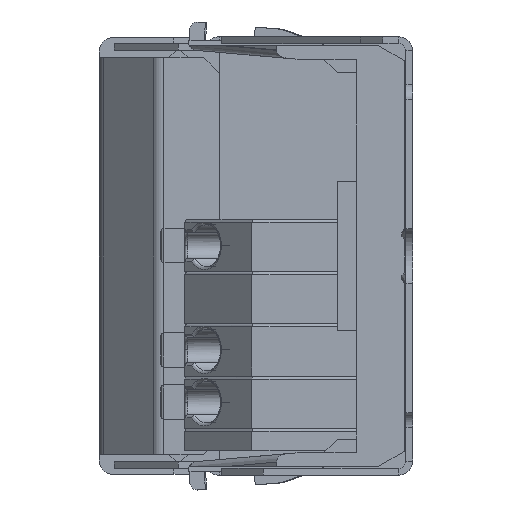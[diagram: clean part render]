
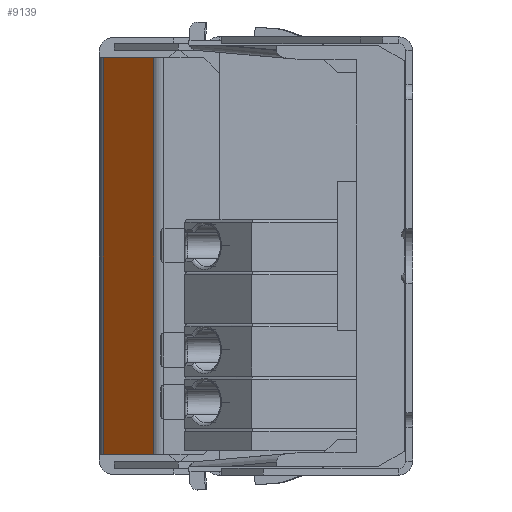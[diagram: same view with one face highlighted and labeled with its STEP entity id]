
A CAD part, left-side view. The second image highlights one B-rep face of the part: STEP entity #9139.
In plain terms, the highlighted planar face has unit normal (-0.707, 0.707, 0).
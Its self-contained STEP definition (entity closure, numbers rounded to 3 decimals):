
#104 = DIRECTION ( 'NONE',  ( 0., 0., -1. ) ) ;
#661 = CARTESIAN_POINT ( 'NONE',  ( -0.608, 21.27, 13.3 ) ) ;
#917 = VERTEX_POINT ( 'NONE', #13013 ) ;
#1867 = LINE ( 'NONE', #6330, #15520 ) ;
#2083 = VERTEX_POINT ( 'NONE', #2334 ) ;
#2334 = CARTESIAN_POINT ( 'NONE',  ( -4.536, 17.342, 13.3 ) ) ;
#3415 = DIRECTION ( 'NONE',  ( -0.707, -0.707, 0. ) ) ;
#4176 = DIRECTION ( 'NONE',  ( -0.707, 0.707, 0. ) ) ;
#5585 = CARTESIAN_POINT ( 'NONE',  ( -4.536, 17.342, 14.65 ) ) ;
#6082 = FACE_OUTER_BOUND ( 'NONE', #14527, .T. ) ;
#6330 = CARTESIAN_POINT ( 'NONE',  ( -0.608, 21.27, -13.3 ) ) ;
#6551 = VERTEX_POINT ( 'NONE', #33841 ) ;
#7755 = ORIENTED_EDGE ( 'NONE', *, *, #34286, .F. ) ;
#8198 = VECTOR ( 'NONE', #10668, 1000. ) ;
#8855 = ORIENTED_EDGE ( 'NONE', *, *, #29384, .F. ) ;
#9139 = ADVANCED_FACE ( 'NONE', ( #6082 ), #33803, .T. ) ;
#10091 = VECTOR ( 'NONE', #104, 1000. ) ;
#10668 = DIRECTION ( 'NONE',  ( 0., 0., -1. ) ) ;
#11822 = DIRECTION ( 'NONE',  ( -0.707, -0.707, 0. ) ) ;
#13013 = CARTESIAN_POINT ( 'NONE',  ( -1.142, 20.736, 13.3 ) ) ;
#14527 = EDGE_LOOP ( 'NONE', ( #7755, #8855, #27403, #21248 ) ) ;
#15520 = VECTOR ( 'NONE', #11822, 1000. ) ;
#17321 = LINE ( 'NONE', #5585, #10091 ) ;
#19763 = VECTOR ( 'NONE', #3415, 1000. ) ;
#20463 = CARTESIAN_POINT ( 'NONE',  ( 210.817, 232.695, 14.65 ) ) ;
#20952 = EDGE_CURVE ( 'NONE', #917, #6551, #28947, .T. ) ;
#21248 = ORIENTED_EDGE ( 'NONE', *, *, #29986, .T. ) ;
#23173 = DIRECTION ( 'NONE',  ( 0., 0., 1. ) ) ;
#24292 = CARTESIAN_POINT ( 'NONE',  ( -1.142, 20.736, 14.65 ) ) ;
#25586 = AXIS2_PLACEMENT_3D ( 'NONE', #20463, #4176, #23173 ) ;
#26662 = CARTESIAN_POINT ( 'NONE',  ( -4.536, 17.342, -13.3 ) ) ;
#26931 = LINE ( 'NONE', #661, #19763 ) ;
#27403 = ORIENTED_EDGE ( 'NONE', *, *, #20952, .T. ) ;
#28947 = LINE ( 'NONE', #24292, #8198 ) ;
#29384 = EDGE_CURVE ( 'NONE', #917, #2083, #26931, .T. ) ;
#29986 = EDGE_CURVE ( 'NONE', #6551, #30465, #1867, .T. ) ;
#30465 = VERTEX_POINT ( 'NONE', #26662 ) ;
#33803 = PLANE ( 'NONE',  #25586 ) ;
#33841 = CARTESIAN_POINT ( 'NONE',  ( -1.142, 20.736, -13.3 ) ) ;
#34286 = EDGE_CURVE ( 'NONE', #2083, #30465, #17321, .T. ) ;
